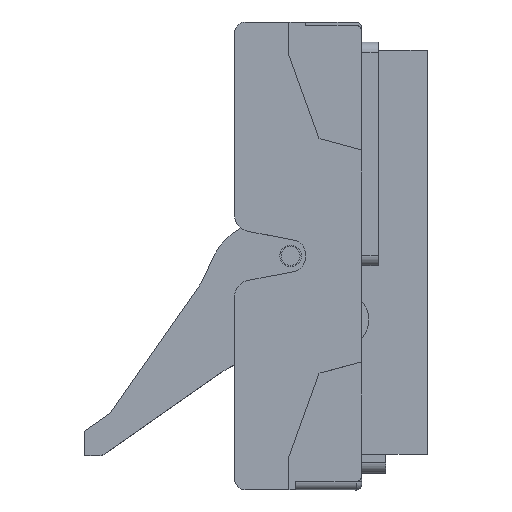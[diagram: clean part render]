
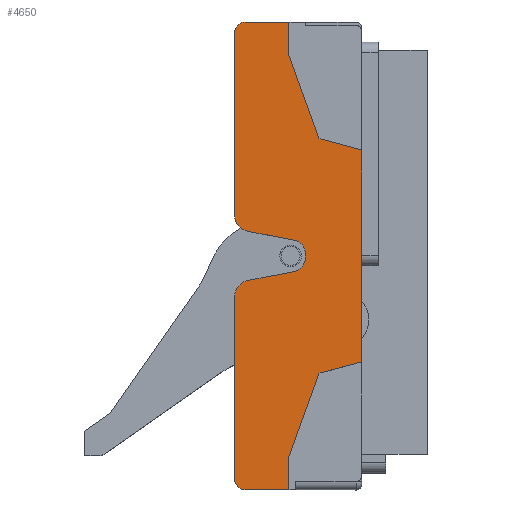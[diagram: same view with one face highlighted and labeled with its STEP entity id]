
A CAD part, top view. The second image highlights one B-rep face of the part: STEP entity #4650.
In plain terms, the highlighted planar face has unit normal (0, 0, 1).
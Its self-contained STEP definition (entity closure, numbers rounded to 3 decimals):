
#3657=AXIS2_PLACEMENT_3D('Circle Axis2P3D',#3655,#3656,$) ;
#3726=AXIS2_PLACEMENT_3D('Circle Axis2P3D',#3724,#3725,$) ;
#3774=AXIS2_PLACEMENT_3D('Circle Axis2P3D',#3772,#3773,$) ;
#3845=AXIS2_PLACEMENT_3D('Circle Axis2P3D',#3843,#3844,$) ;
#4562=AXIS2_PLACEMENT_3D('Circle Axis2P3D',#4560,#4561,$) ;
#4621=AXIS2_PLACEMENT_3D('Plane Axis2P3D',#4618,#4619,#4620) ;
#4625=AXIS2_PLACEMENT_3D('Circle Axis2P3D',#4623,#4624,$) ;
#1064=CARTESIAN_POINT('Vertex',(1.5,19.552,12.5)) ;
#1067=CARTESIAN_POINT('Line Origine',(1.5,0.,12.5)) ;
#1071=CARTESIAN_POINT('Vertex',(1.5,-19.552,12.5)) ;
#2117=CARTESIAN_POINT('Vertex',(-11.9,-43.15,12.5)) ;
#2120=CARTESIAN_POINT('Line Origine',(-15.9,-43.15,12.5)) ;
#2124=CARTESIAN_POINT('Vertex',(-19.9,-43.15,12.5)) ;
#2351=CARTESIAN_POINT('Vertex',(-19.9,43.15,12.5)) ;
#2354=CARTESIAN_POINT('Line Origine',(-15.9,43.15,12.5)) ;
#2358=CARTESIAN_POINT('Vertex',(-11.9,43.15,12.5)) ;
#2449=CARTESIAN_POINT('Vertex',(-6.355,-21.647,12.5)) ;
#2452=CARTESIAN_POINT('Line Origine',(-9.128,-29.339,12.5)) ;
#2456=CARTESIAN_POINT('Vertex',(-11.9,-37.031,12.5)) ;
#2476=CARTESIAN_POINT('Line Origine',(-2.428,-20.6,12.5)) ;
#2549=CARTESIAN_POINT('Vertex',(-6.355,21.647,12.5)) ;
#2552=CARTESIAN_POINT('Line Origine',(-2.428,20.6,12.5)) ;
#2573=CARTESIAN_POINT('Vertex',(-11.9,37.031,12.5)) ;
#2576=CARTESIAN_POINT('Line Origine',(-9.128,29.339,12.5)) ;
#2941=CARTESIAN_POINT('Line Origine',(-11.9,40.09,12.5)) ;
#2953=CARTESIAN_POINT('Line Origine',(-11.9,-40.09,12.5)) ;
#3652=CARTESIAN_POINT('Vertex',(-8.9,0.435,12.5)) ;
#3655=CARTESIAN_POINT('Axis2P3D Location',(-11.4,0.435,12.5)) ;
#3659=CARTESIAN_POINT('Vertex',(-10.928,2.89,12.5)) ;
#3690=CARTESIAN_POINT('Vertex',(-8.9,-0.435,12.5)) ;
#3693=CARTESIAN_POINT('Line Origine',(-8.9,0.,12.5)) ;
#3721=CARTESIAN_POINT('Vertex',(-10.928,-2.89,12.5)) ;
#3724=CARTESIAN_POINT('Axis2P3D Location',(-11.4,-0.435,12.5)) ;
#3748=CARTESIAN_POINT('Line Origine',(-15.197,3.711,12.5)) ;
#3752=CARTESIAN_POINT('Vertex',(-19.467,4.532,12.5)) ;
#3772=CARTESIAN_POINT('Axis2P3D Location',(-18.9,7.478,12.5)) ;
#3776=CARTESIAN_POINT('Vertex',(-21.9,7.478,12.5)) ;
#3814=CARTESIAN_POINT('Vertex',(-19.467,-4.532,12.5)) ;
#3817=CARTESIAN_POINT('Line Origine',(-15.197,-3.711,12.5)) ;
#3838=CARTESIAN_POINT('Vertex',(-21.9,-7.478,12.5)) ;
#3843=CARTESIAN_POINT('Axis2P3D Location',(-18.9,-7.478,12.5)) ;
#4513=CARTESIAN_POINT('Vertex',(-21.9,-41.15,12.5)) ;
#4518=CARTESIAN_POINT('Line Origine',(-21.9,-24.314,12.5)) ;
#4560=CARTESIAN_POINT('Axis2P3D Location',(-19.9,-41.15,12.5)) ;
#4576=CARTESIAN_POINT('Vertex',(-21.9,41.15,12.5)) ;
#4586=CARTESIAN_POINT('Line Origine',(-21.9,24.314,12.5)) ;
#4618=CARTESIAN_POINT('Axis2P3D Location',(-21.9,0.,12.5)) ;
#4623=CARTESIAN_POINT('Axis2P3D Location',(-19.9,41.15,12.5)) ;
#1068=DIRECTION('Vector Direction',(0.,1.,0.)) ;
#2121=DIRECTION('Vector Direction',(-1.,0.,0.)) ;
#2355=DIRECTION('Vector Direction',(-1.,0.,0.)) ;
#2453=DIRECTION('Vector Direction',(0.339,0.941,0.)) ;
#2477=DIRECTION('Vector Direction',(0.966,0.258,0.)) ;
#2553=DIRECTION('Vector Direction',(-0.966,0.258,0.)) ;
#2577=DIRECTION('Vector Direction',(-0.339,0.941,0.)) ;
#2942=DIRECTION('Vector Direction',(0.,-1.,0.)) ;
#2954=DIRECTION('Vector Direction',(0.,-1.,0.)) ;
#3656=DIRECTION('Axis2P3D Direction',(0.,0.,-1.)) ;
#3694=DIRECTION('Vector Direction',(0.,-1.,0.)) ;
#3725=DIRECTION('Axis2P3D Direction',(0.,-0.,-1.)) ;
#3749=DIRECTION('Vector Direction',(0.982,-0.189,0.)) ;
#3773=DIRECTION('Axis2P3D Direction',(0.,0.,-1.)) ;
#3818=DIRECTION('Vector Direction',(0.982,0.189,0.)) ;
#3844=DIRECTION('Axis2P3D Direction',(-0.,0.,-1.)) ;
#4519=DIRECTION('Vector Direction',(0.,-1.,0.)) ;
#4561=DIRECTION('Axis2P3D Direction',(0.,0.,-1.)) ;
#4587=DIRECTION('Vector Direction',(0.,-1.,0.)) ;
#4619=DIRECTION('Axis2P3D Direction',(0.,-0.,-1.)) ;
#4620=DIRECTION('Axis2P3D XDirection',(1.,0.,0.)) ;
#4624=DIRECTION('Axis2P3D Direction',(0.,-0.,-1.)) ;
#1069=VECTOR('Line Direction',#1068,1.) ;
#2122=VECTOR('Line Direction',#2121,1.) ;
#2356=VECTOR('Line Direction',#2355,1.) ;
#2454=VECTOR('Line Direction',#2453,1.) ;
#2478=VECTOR('Line Direction',#2477,1.) ;
#2554=VECTOR('Line Direction',#2553,1.) ;
#2578=VECTOR('Line Direction',#2577,1.) ;
#2943=VECTOR('Line Direction',#2942,1.) ;
#2955=VECTOR('Line Direction',#2954,1.) ;
#3695=VECTOR('Line Direction',#3694,1.) ;
#3750=VECTOR('Line Direction',#3749,1.) ;
#3819=VECTOR('Line Direction',#3818,1.) ;
#4520=VECTOR('Line Direction',#4519,1.) ;
#4588=VECTOR('Line Direction',#4587,1.) ;
#4629=ORIENTED_EDGE('',*,*,#4627,.F.) ;
#4630=ORIENTED_EDGE('',*,*,#4590,.T.) ;
#4631=ORIENTED_EDGE('',*,*,#3778,.F.) ;
#4632=ORIENTED_EDGE('',*,*,#3754,.T.) ;
#4633=ORIENTED_EDGE('',*,*,#3661,.T.) ;
#4634=ORIENTED_EDGE('',*,*,#3697,.T.) ;
#4635=ORIENTED_EDGE('',*,*,#3728,.T.) ;
#4636=ORIENTED_EDGE('',*,*,#3821,.F.) ;
#4637=ORIENTED_EDGE('',*,*,#3847,.F.) ;
#4638=ORIENTED_EDGE('',*,*,#4522,.T.) ;
#4639=ORIENTED_EDGE('',*,*,#4564,.F.) ;
#4640=ORIENTED_EDGE('',*,*,#2126,.F.) ;
#4641=ORIENTED_EDGE('',*,*,#2957,.T.) ;
#4642=ORIENTED_EDGE('',*,*,#2458,.T.) ;
#4643=ORIENTED_EDGE('',*,*,#2480,.T.) ;
#4644=ORIENTED_EDGE('',*,*,#1073,.T.) ;
#4645=ORIENTED_EDGE('',*,*,#2556,.T.) ;
#4646=ORIENTED_EDGE('',*,*,#2580,.T.) ;
#4647=ORIENTED_EDGE('',*,*,#2945,.F.) ;
#4648=ORIENTED_EDGE('',*,*,#2360,.T.) ;
#4650=ADVANCED_FACE('HOUSING',(#4649),#4622,.F.) ;
#3658=CIRCLE('generated circle',#3657,2.5) ;
#3727=CIRCLE('generated circle',#3726,2.5) ;
#3775=CIRCLE('generated circle',#3774,3.) ;
#3846=CIRCLE('generated circle',#3845,3.) ;
#4563=CIRCLE('generated circle',#4562,2.) ;
#4626=CIRCLE('generated circle',#4625,2.) ;
#1073=EDGE_CURVE('',#1072,#1065,#1070,.T.) ;
#2126=EDGE_CURVE('',#2118,#2125,#2123,.T.) ;
#2360=EDGE_CURVE('',#2359,#2352,#2357,.T.) ;
#2458=EDGE_CURVE('',#2457,#2450,#2455,.T.) ;
#2480=EDGE_CURVE('',#2450,#1072,#2479,.T.) ;
#2556=EDGE_CURVE('',#1065,#2550,#2555,.T.) ;
#2580=EDGE_CURVE('',#2550,#2574,#2579,.T.) ;
#2945=EDGE_CURVE('',#2359,#2574,#2944,.T.) ;
#2957=EDGE_CURVE('',#2118,#2457,#2956,.F.) ;
#3661=EDGE_CURVE('',#3660,#3653,#3658,.T.) ;
#3697=EDGE_CURVE('',#3653,#3691,#3696,.T.) ;
#3728=EDGE_CURVE('',#3691,#3722,#3727,.T.) ;
#3754=EDGE_CURVE('',#3753,#3660,#3751,.T.) ;
#3778=EDGE_CURVE('',#3753,#3777,#3775,.T.) ;
#3821=EDGE_CURVE('',#3815,#3722,#3820,.T.) ;
#3847=EDGE_CURVE('',#3839,#3815,#3846,.T.) ;
#4522=EDGE_CURVE('',#3839,#4514,#4521,.T.) ;
#4564=EDGE_CURVE('',#2125,#4514,#4563,.T.) ;
#4590=EDGE_CURVE('',#4577,#3777,#4589,.T.) ;
#4627=EDGE_CURVE('',#4577,#2352,#4626,.T.) ;
#4628=EDGE_LOOP('',(#4629,#4630,#4631,#4632,#4633,#4634,#4635,#4636,#4637,#4638,#4639,#4640,#4641,#4642,#4643,#4644,#4645,#4646,#4647,#4648)) ;
#4649=FACE_OUTER_BOUND('',#4628,.T.) ;
#1070=LINE('Line',#1067,#1069) ;
#2123=LINE('Line',#2120,#2122) ;
#2357=LINE('Line',#2354,#2356) ;
#2455=LINE('Line',#2452,#2454) ;
#2479=LINE('Line',#2476,#2478) ;
#2555=LINE('Line',#2552,#2554) ;
#2579=LINE('Line',#2576,#2578) ;
#2944=LINE('Line',#2941,#2943) ;
#2956=LINE('Line',#2953,#2955) ;
#3696=LINE('Line',#3693,#3695) ;
#3751=LINE('Line',#3748,#3750) ;
#3820=LINE('Line',#3817,#3819) ;
#4521=LINE('Line',#4518,#4520) ;
#4589=LINE('Line',#4586,#4588) ;
#4622=PLANE('',#4621) ;
#1065=VERTEX_POINT('',#1064) ;
#1072=VERTEX_POINT('',#1071) ;
#2118=VERTEX_POINT('',#2117) ;
#2125=VERTEX_POINT('',#2124) ;
#2352=VERTEX_POINT('',#2351) ;
#2359=VERTEX_POINT('',#2358) ;
#2450=VERTEX_POINT('',#2449) ;
#2457=VERTEX_POINT('',#2456) ;
#2550=VERTEX_POINT('',#2549) ;
#2574=VERTEX_POINT('',#2573) ;
#3653=VERTEX_POINT('',#3652) ;
#3660=VERTEX_POINT('',#3659) ;
#3691=VERTEX_POINT('',#3690) ;
#3722=VERTEX_POINT('',#3721) ;
#3753=VERTEX_POINT('',#3752) ;
#3777=VERTEX_POINT('',#3776) ;
#3815=VERTEX_POINT('',#3814) ;
#3839=VERTEX_POINT('',#3838) ;
#4514=VERTEX_POINT('',#4513) ;
#4577=VERTEX_POINT('',#4576) ;
